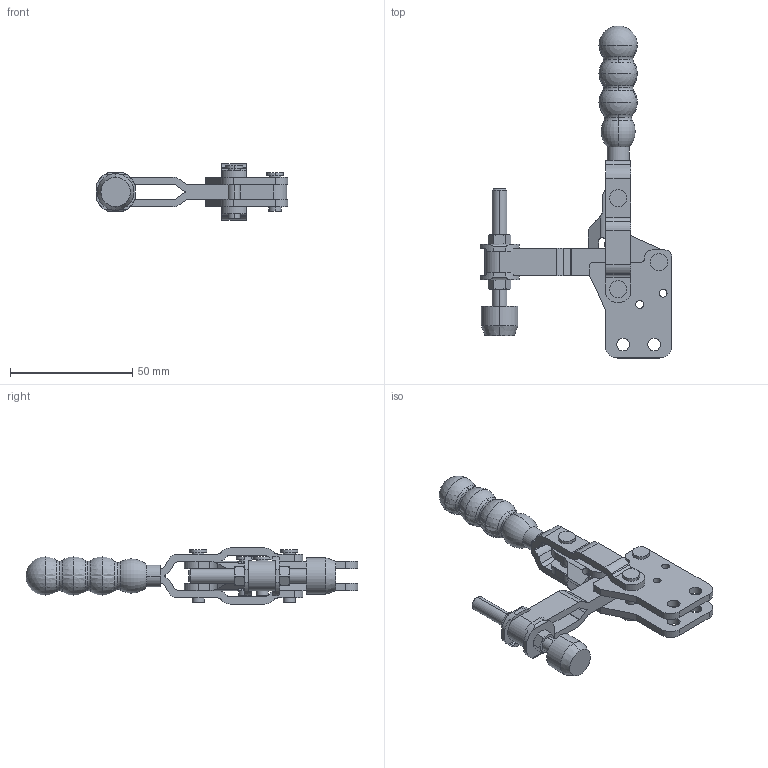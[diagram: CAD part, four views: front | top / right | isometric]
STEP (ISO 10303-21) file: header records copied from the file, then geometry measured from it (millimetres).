
FILE_DESCRIPTION( ( '' ), '1' );
FILE_NAME( '//partserver002.servicenet/client_exchange/iodir/jobs/output/wkb5782539_no4/STEP/v150_1b_2_14b.stp', '2006-11-29T10:31:39', ( '' ), ( '' ), ' ', ' ', ' ' );
FILE_SCHEMA( ( 'automotive_design' ) );
Length unit declared in the file: millimetre
Products named in the file (8): 1; 2; 3; 4; 5; 6; 7; 8
Bounding box: 78.53 x 135.9 x 23 mm (x, y, z)
Volume: 31161 mm3; surface area: 21544.7 mm2
Topology: 8 solids, 8 shells, 342 faces, 899 edges, 584 vertices
Faces by surface type: cylinder 160, plane 126, cone 36, torus 14, sphere 6
Entity records: 21131 total; most frequent: CARTESIAN_POINT 2195, DIRECTION 1915, STYLED_ITEM 1821, PRESENTATION_STYLE_ASSIGNMENT 1821, COLOUR_RGB 1821, ORIENTED_EDGE 1774, EDGE_CURVE 887, CURVE_STYLE 887
